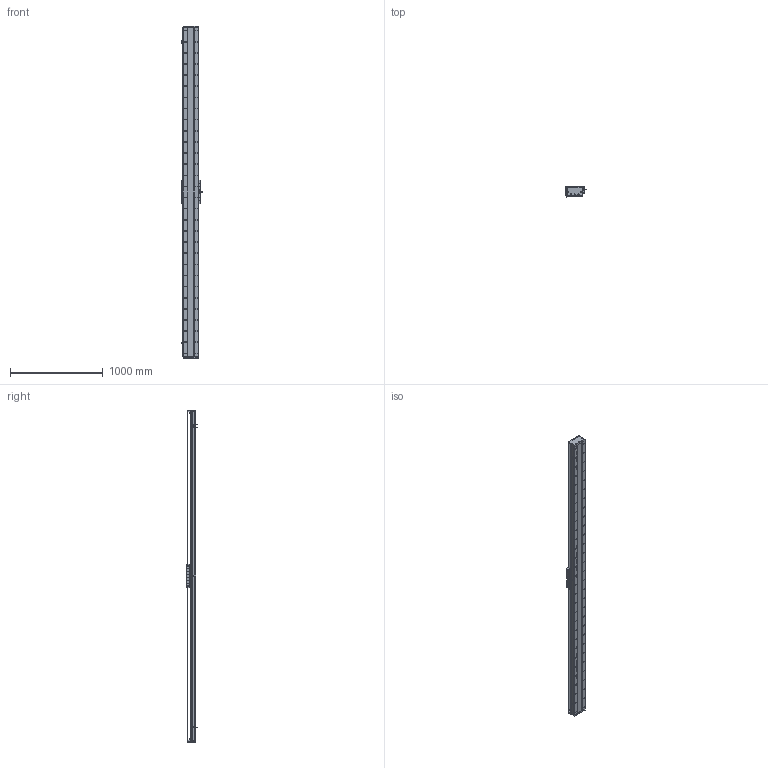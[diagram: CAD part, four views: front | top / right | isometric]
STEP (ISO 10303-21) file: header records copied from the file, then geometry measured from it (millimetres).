
FILE_DESCRIPTION (( 'STEP AP203' ), '1' );
FILE_NAME ('DA-C165-C3-T3240-C010-0.2 直线电机.STEP', '2023-06-13T09:01:23', ( '微软用户' ), ( '微软中国' ), 'SwSTEP 2.0', 'SolidWorks 2019', '' );
FILE_SCHEMA (( 'CONFIG_CONTROL_DESIGN' ));
Length unit declared in the file: millimetre
Products named in the file (18): 复件 DA165-GDYK-00 钢带压块^复件 CU165钢带组件_DA-C165-C3-T-C010-0.2-N 直线电机; DA-C165-C3-T3240-C010-0.2 眻盄萇儂; 复件 DA165-GDLK-00 钢带拉块^复件 CU165钢带组件_DA-C165-C3-T-C010-0.2-N 直线电机; IU-CU165-L 菁釱絳寢; 葩璃 DA95-GT-T-00^IU-CU165-L 菁釱絳寢_T; 复件 CU165钢带组件^DA-C165-C3-T-C010-0.2-N 直线电机; 复件 六角薄螺母 M3^DA-C165-C3-T-C010-0.2-N 直线电机_GB_FASTENER_NUT_STNAB M3-C; 葩璃 PM-T45^DA-C165-C3-T-C010-0.2-N 眻盄萇儂; 复件 DMA-010-0.2 读数头^DA-C165-C3-T-C010-0.2-N 直线电机; 复件 DA165-GYP-00 光电感应片^DA-C165-C3-T-C010-0.2-N 直线电机; 复件 DA165-GD-DG-H-00 端盖^复件 CU165钢带组件_DA-C165-C3-T-C010-0.2-N 直线电机; 复件 DA165-GD-1860-002-00 钢带盖板^复件 CU165钢带组件_DA-C165-C3-T-C010-0.2-N 直线电机; 葩璃 CKM03-W075-C1C2-TP-3.0^DA-C165-C3-T-C010-0.2-N 眻盄萇儂; 复件 XD-U-02L 磁栅尺^DA-C165-C3-T-C010-0.2-N 直线电机_T; 复件 CU165 底座^IU-CU165-L 底座导轨_L3540; 复件 DA95-HXJ-00 缓冲橡胶^DA-C165-C3-T-C010-0.2-N 直线电机; 葩璃 CKM01-W075-TRL^DA-C165-C3-T-C010-0.2-N 眻盄萇儂; 珨极趙賑雄怢啣C3-wf
Assembly tree (35 placements, depth 3):
  DA-C165-C3-T3240-C010-0.2 眻盄萇儂
    IU-CU165-L 菁釱絳寢
      复件 CU165 底座^IU-CU165-L 底座导轨_L3540
      葩璃 DA95-GT-T-00^IU-CU165-L 菁釱絳寢_T  x4
    复件 XD-U-02L 磁栅尺^DA-C165-C3-T-C010-0.2-N 直线电机_T
    葩璃 PM-T45^DA-C165-C3-T-C010-0.2-N 眻盄萇儂  x3
    葩璃 CKM01-W075-TRL^DA-C165-C3-T-C010-0.2-N 眻盄萇儂
    复件 CU165钢带组件^DA-C165-C3-T-C010-0.2-N 直线电机
      复件 DA165-GD-DG-H-00 端盖^复件 CU165钢带组件_DA-C165-C3-T-C010-0.2-N 直线电机  x2
      复件 DA165-GDYK-00 钢带压块^复件 CU165钢带组件_DA-C165-C3-T-C010-0.2-N 直线电机  x2
      复件 DA165-GD-1860-002-00 钢带盖板^复件 CU165钢带组件_DA-C165-C3-T-C010-0.2-N 直线电机
      复件 DA165-GDLK-00 钢带拉块^复件 CU165钢带组件_DA-C165-C3-T-C010-0.2-N 直线电机  x2
    复件 DA95-HXJ-00 缓冲橡胶^DA-C165-C3-T-C010-0.2-N 直线电机  x4
    复件 DA165-GYP-00 光电感应片^DA-C165-C3-T-C010-0.2-N 直线电机
    复件 DMA-010-0.2 读数头^DA-C165-C3-T-C010-0.2-N 直线电机
    葩璃 CKM03-W075-C1C2-TP-3.0^DA-C165-C3-T-C010-0.2-N 眻盄萇儂
    复件 六角薄螺母 M3^DA-C165-C3-T-C010-0.2-N 直线电机_GB_FASTENER_NUT_STNAB M3-C  x8
    珨极趙賑雄怢啣C3-wf
Bounding box: 233 x 111.45 x 3580 mm (x, y, z)
Volume: 19681668.5 mm3; surface area: 5949574.6 mm2
Topology: 72 solids, 122 shells, 4842 faces, 14303 edges, 9114 vertices
Faces by surface type: cylinder 2968, plane 1248, cone 576, torus 46, sphere 4
Entity records: 168147 total; most frequent: CARTESIAN_POINT 47701, ORIENTED_EDGE 25358, DIRECTION 24195, EDGE_CURVE 12679, AXIS2_PLACEMENT_3D 9340, VERTEX_POINT 8302, EDGE_LOOP 5807, LINE 5515
